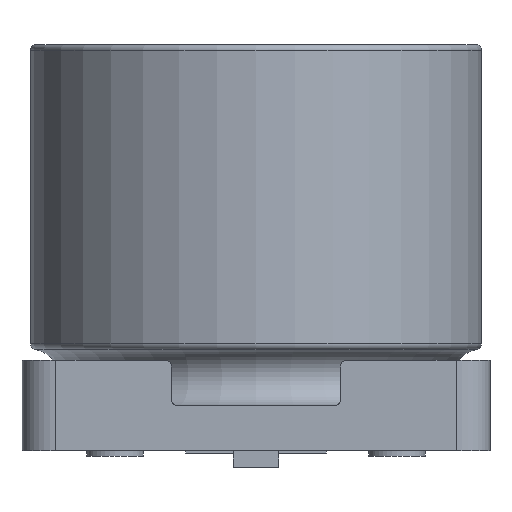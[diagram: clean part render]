
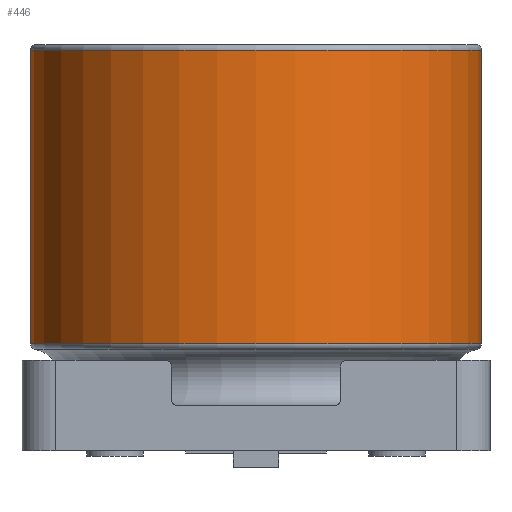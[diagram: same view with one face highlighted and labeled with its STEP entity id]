
A CAD part, left-side view. The second image highlights one B-rep face of the part: STEP entity #446.
In plain terms, the highlighted cylindrical face has radius 4 mm (diameter 8 mm), a full revolution.
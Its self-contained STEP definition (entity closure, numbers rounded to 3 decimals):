
#219=CYLINDRICAL_SURFACE('',#2487,4.);
#446=ADVANCED_FACE('',(#598,#599),#219,.T.);
#598=FACE_BOUND('',#672,.T.);
#599=FACE_BOUND('',#673,.T.);
#672=EDGE_LOOP('',(#1125));
#673=EDGE_LOOP('',(#1126));
#790=CIRCLE('',#2485,4.);
#791=CIRCLE('',#2486,4.);
#1125=ORIENTED_EDGE('',*,*,#1840,.T.);
#1126=ORIENTED_EDGE('',*,*,#1841,.T.);
#1591=VERTEX_POINT('',#3752);
#1592=VERTEX_POINT('',#3754);
#1840=EDGE_CURVE('',#1591,#1591,#790,.T.);
#1841=EDGE_CURVE('',#1592,#1592,#791,.T.);
#2485=AXIS2_PLACEMENT_3D('',#3751,#2909,#2910);
#2486=AXIS2_PLACEMENT_3D('',#3753,#2911,#2912);
#2487=AXIS2_PLACEMENT_3D('',#3755,#2913,#2914);
#2909=DIRECTION('',(0.,0.,1.));
#2910=DIRECTION('',(1.,0.,0.));
#2911=DIRECTION('',(0.,0.,-1.));
#2912=DIRECTION('',(-1.,0.,0.));
#2913=DIRECTION('',(0.,0.,-1.));
#2914=DIRECTION('',(-1.,0.,0.));
#3751=CARTESIAN_POINT('',(0.,0.,1.892));
#3752=CARTESIAN_POINT('',(4.,0.,1.892));
#3753=CARTESIAN_POINT('',(0.,0.,7.1));
#3754=CARTESIAN_POINT('',(-4.,0.,7.1));
#3755=CARTESIAN_POINT('',(0.,0.,0.));
